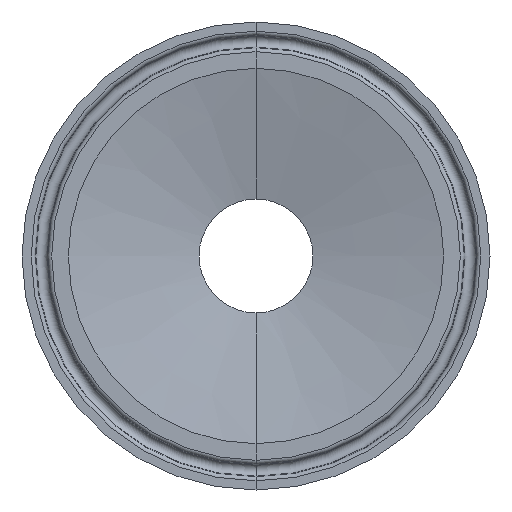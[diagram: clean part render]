
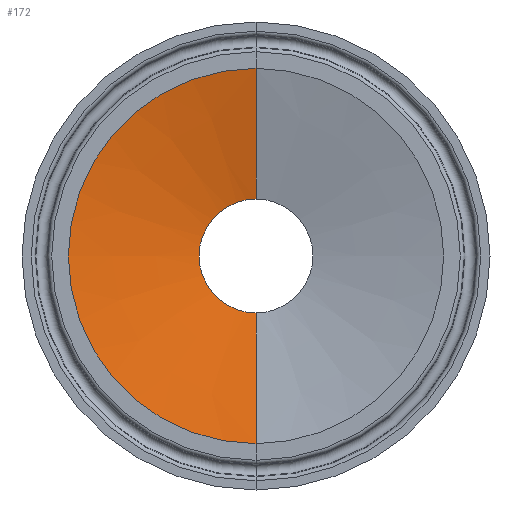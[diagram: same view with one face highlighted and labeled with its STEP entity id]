
A CAD part, front view. The second image highlights one B-rep face of the part: STEP entity #172.
In plain terms, the highlighted conical face has half-angle 77.4 degrees and reference radius 36.449 mm.
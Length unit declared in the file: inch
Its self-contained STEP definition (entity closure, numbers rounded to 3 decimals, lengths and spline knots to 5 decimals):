
#4 = VERTEX_POINT ( 'NONE', #771 ) ;
#15 = CARTESIAN_POINT ( 'NONE',  ( 0., 0., 1.435 ) ) ;
#28 = LINE ( 'NONE', #329, #33 ) ;
#33 = VECTOR ( 'NONE', #131, 39.37008 ) ;
#42 = CARTESIAN_POINT ( 'NONE',  ( 0., 0.22353, 0.435 ) ) ;
#72 = CARTESIAN_POINT ( 'NONE',  ( 0., 0., -1.435 ) ) ;
#80 = ORIENTED_EDGE ( 'NONE', *, *, #550, .F. ) ;
#129 = CARTESIAN_POINT ( 'NONE',  ( 0., 0.22353, 0. ) ) ;
#131 = DIRECTION ( 'NONE',  ( 0., -0.218, 0.976 ) ) ;
#172 = ADVANCED_FACE ( 'NONE', ( #391 ), #196, .F. ) ;
#191 = DIRECTION ( 'NONE',  ( 0., 0., -1. ) ) ;
#196 = CONICAL_SURFACE ( 'NONE', #501, 1.435, 1.351 ) ;
#232 = ORIENTED_EDGE ( 'NONE', *, *, #566, .T. ) ;
#251 = ORIENTED_EDGE ( 'NONE', *, *, #562, .T. ) ;
#252 = VERTEX_POINT ( 'NONE', #72 ) ;
#266 = CARTESIAN_POINT ( 'NONE',  ( 0., 0., 0. ) ) ;
#309 = VERTEX_POINT ( 'NONE', #15 ) ;
#329 = CARTESIAN_POINT ( 'NONE',  ( 0., 0., 1.435 ) ) ;
#333 = CARTESIAN_POINT ( 'NONE',  ( 0., 0., 0. ) ) ;
#336 = DIRECTION ( 'NONE',  ( 0., -1., 0. ) ) ;
#351 = LINE ( 'NONE', #642, #683 ) ;
#369 = EDGE_LOOP ( 'NONE', ( #80, #251, #232, #542 ) ) ;
#385 = DIRECTION ( 'NONE',  ( 0., 0., -1. ) ) ;
#391 = FACE_OUTER_BOUND ( 'NONE', #369, .T. ) ;
#392 = DIRECTION ( 'NONE',  ( 0., 0., -1. ) ) ;
#404 = AXIS2_PLACEMENT_3D ( 'NONE', #333, #773, #392 ) ;
#431 = AXIS2_PLACEMENT_3D ( 'NONE', #129, #564, #191 ) ;
#501 = AXIS2_PLACEMENT_3D ( 'NONE', #266, #336, #385 ) ;
#517 = CIRCLE ( 'NONE', #431, 0.435 ) ;
#542 = ORIENTED_EDGE ( 'NONE', *, *, #570, .F. ) ;
#550 = EDGE_CURVE ( 'NONE', #788, #4, #517, .T. ) ;
#562 = EDGE_CURVE ( 'NONE', #788, #309, #28, .T. ) ;
#564 = DIRECTION ( 'NONE',  ( 0., -1., 0. ) ) ;
#566 = EDGE_CURVE ( 'NONE', #309, #252, #691, .T. ) ;
#570 = EDGE_CURVE ( 'NONE', #4, #252, #351, .T. ) ;
#642 = CARTESIAN_POINT ( 'NONE',  ( 0., 0., -1.435 ) ) ;
#683 = VECTOR ( 'NONE', #701, 39.37008 ) ;
#691 = CIRCLE ( 'NONE', #404, 1.435 ) ;
#701 = DIRECTION ( 'NONE',  ( 0., -0.218, -0.976 ) ) ;
#771 = CARTESIAN_POINT ( 'NONE',  ( 0., 0.22353, -0.435 ) ) ;
#773 = DIRECTION ( 'NONE',  ( 0., -1., 0. ) ) ;
#788 = VERTEX_POINT ( 'NONE', #42 ) ;
